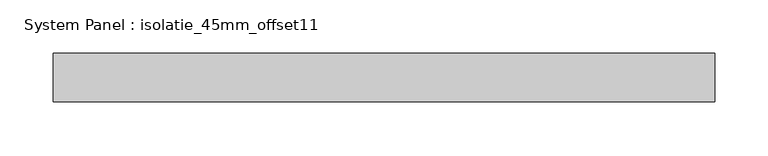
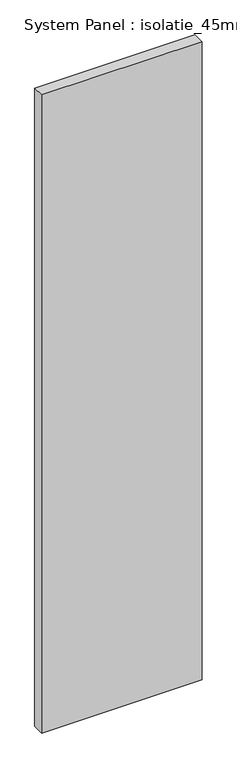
"""IFC4 building model written with IfcOpenShell, lengths in millimetres: plate geometry, System Panel : isolatie_45mm_offset11."""

import ifcopenshell
import ifcopenshell.guid

model = None  # the IFC model being written
_history = None  # IfcOwnerHistory: only IFC2X3 demands one
_inside = {}  # id of a spatial element -> (the spatial element, [elements in it])
_under = {}  # id of a project, library or spatial element -> (it, [spatial elements below it])
_declared = {}  # id of a project -> (the project, [libraries it declares])
_typed = {}  # id of a type object -> (the type object, [elements of that type])
_made_of = {}  # id of a material, layer set ... -> (it, [elements and type objects made of it])


def new_model(schema):
    """Start an empty IFC model of exactly this schema.

    Asked for "IFC4X3", IfcOpenShell would pick the latest addendum, in which some entities
    have other attributes; the version numbers below select the first issue.
    IFC2X3 requires an IfcOwnerHistory on every rooted entity: one is made here for all.
    """
    global model, _history
    if schema == "IFC4X3":
        model = ifcopenshell.file(schema_version=(4, 3, 0, 0))
    else:
        model = ifcopenshell.file(schema=schema)
    _inside.clear()
    _under.clear()
    _declared.clear()
    _typed.clear()
    _made_of.clear()
    _history = None
    if model.schema == "IFC2X3":
        org = make("IfcOrganization", Name="unknown")
        user = make(
            "IfcPersonAndOrganization",
            ThePerson=make("IfcPerson", FamilyName="unknown"),
            TheOrganization=org,
        )
        app = make(
            "IfcApplication",
            ApplicationDeveloper=org,
            Version="unknown",
            ApplicationFullName="unknown",
            ApplicationIdentifier="unknown",
        )
        _history = make(
            "IfcOwnerHistory",
            OwningUser=user,
            OwningApplication=app,
            ChangeAction="ADDED",
            CreationDate=0,
        )
    return model


def make(cls, **values):
    """One entity of the class cls with the attributes given. An attribute that is None is left unset."""
    return model.create_entity(
        cls, **{name: value for name, value in values.items() if value is not None}
    )


def rooted(cls, **values):
    """An entity with a GlobalId (a new one), such as an element, a storey or a relation."""
    return make(cls, GlobalId=ifcopenshell.guid.new(), OwnerHistory=_history, **values)


def si_unit(unit_type, name, prefix=None):
    """IfcSIUnit, for example si_unit("LENGTHUNIT", "METRE", prefix="MILLI")."""
    return make("IfcSIUnit", UnitType=unit_type, Prefix=prefix, Name=name)


def assignment(units):
    """IfcUnitAssignment: the units of a project."""
    return None if units is None else make("IfcUnitAssignment", Units=units)


def point(xyz):
    """IfcCartesianPoint."""
    return None if xyz is None else make("IfcCartesianPoint", Coordinates=xyz)


def direction(xyz):
    """IfcDirection."""
    return None if xyz is None else make("IfcDirection", DirectionRatios=xyz)


def frame(location, z_axis=None, x_axis=None):
    """IfcAxis2Placement3D, a coordinate frame: its origin and axes. An axis left out is left unset."""
    return make(
        "IfcAxis2Placement3D",
        Location=point(location),
        Axis=direction(z_axis),
        RefDirection=direction(x_axis),
    )


def origin():
    """The frame at (0, 0, 0) with its axes left unset."""
    return frame((0.0, 0.0, 0.0))


def origin_with_axes():
    """The frame at (0, 0, 0) with the z axis (0, 0, 1) and the x axis (1, 0, 0) written out."""
    return frame((0.0, 0.0, 0.0), z_axis=(0.0, 0.0, 1.0), x_axis=(1.0, 0.0, 0.0))


def place(relative_to, where):
    """IfcLocalPlacement: puts the frame where relative to a parent placement (None: the world)."""
    return make(
        "IfcLocalPlacement", PlacementRelTo=relative_to, RelativePlacement=where
    )


def context(
    kind, dimensions, precision=None, world=None, true_north=None, identifier=None
):
    """IfcGeometricRepresentationContext, for example the 3D "Model" context."""
    return make(
        "IfcGeometricRepresentationContext",
        ContextIdentifier=identifier,
        ContextType=kind,
        CoordinateSpaceDimension=dimensions,
        Precision=precision,
        WorldCoordinateSystem=world,
        TrueNorth=true_north,
    )


def project(units=None, contexts=None):
    """IfcProject with its units and contexts."""
    return rooted(
        "IfcProject",
        Name="project",
        RepresentationContexts=contexts,
        UnitsInContext=assignment(units),
    )


def spatial(cls, under=None, at=None, **own):
    """A site, building, storey or space (cls), placed at a placement, below another one or the project."""
    s = rooted(cls, ObjectPlacement=at, **own)
    if under is not None:
        _under.setdefault(under.id(), (under, []))[1].append(s)
    return s


def polyline(points):
    """IfcPolyline through the points."""
    return make("IfcPolyline", Points=[point(p) for p in points])


def outline(outer, holes=None, kind="AREA"):
    """IfcArbitraryClosedProfileDef: a profile drawn as a closed curve; with holes, ...WithVoids."""
    if holes is None:
        return make("IfcArbitraryClosedProfileDef", ProfileType=kind, OuterCurve=outer)
    return make(
        "IfcArbitraryProfileDefWithVoids",
        ProfileType=kind,
        OuterCurve=outer,
        InnerCurves=holes,
    )


def extrude(swept, where, along, depth):
    """IfcExtrudedAreaSolid: the profile swept, set in the frame where, extruded along a direction by depth."""
    return make(
        "IfcExtrudedAreaSolid",
        SweptArea=swept,
        Position=where,
        ExtrudedDirection=direction(along),
        Depth=depth,
    )


def shape(context_of_items, identifier, shape_type, items):
    """IfcShapeRepresentation: the items that make up one representation, for example the "Body"."""
    return make(
        "IfcShapeRepresentation",
        ContextOfItems=context_of_items,
        RepresentationIdentifier=identifier,
        RepresentationType=shape_type,
        Items=items,
    )


def source(mapping_origin, context_of_items, identifier, shape_type, items):
    """IfcRepresentationMap: a shape defined once, which mapped items show again and again."""
    return make(
        "IfcRepresentationMap",
        MappingOrigin=mapping_origin,
        MappedRepresentation=shape(context_of_items, identifier, shape_type, items),
    )


def transform(
    local_origin,
    x_axis=None,
    y_axis=None,
    z_axis=None,
    scale=None,
    scale2=None,
    scale3=None,
    uniform=True,
):
    """IfcCartesianTransformationOperator3D, or its non-uniform kind. x_axis, y_axis, z_axis: its Axis1, 2, 3."""
    if uniform:
        return make(
            "IfcCartesianTransformationOperator3D",
            Axis1=direction(x_axis),
            Axis2=direction(y_axis),
            LocalOrigin=point(local_origin),
            Scale=scale,
            Axis3=direction(z_axis),
        )
    return make(
        "IfcCartesianTransformationOperator3DnonUniform",
        Axis1=direction(x_axis),
        Axis2=direction(y_axis),
        LocalOrigin=point(local_origin),
        Scale=scale,
        Axis3=direction(z_axis),
        Scale2=scale2,
        Scale3=scale3,
    )


def mapped(mapping_source, mapping_target):
    """IfcMappedItem: shows the shape of a source again, moved by a transform."""
    return make(
        "IfcMappedItem", MappingSource=mapping_source, MappingTarget=mapping_target
    )


def made_of(thing, what):
    """Note that an element or type object is made of a material, layer set ...; save() writes the relation."""
    if what is not None:
        _made_of.setdefault(what.id(), (what, []))[1].append(thing)
    return thing


def element(
    cls,
    number,
    at=None,
    inside=None,
    cuts=None,
    type_object=None,
    material=None,
    context=None,
    identifier="Body",
    shape_type=None,
    held_by="IfcProductDefinitionShape",
    body=None,
    shapes=None,
    **own,
):
    """One element of the class cls, such as IfcWall. Its Tag is "e" and its number.

    at: its placement. inside: the storey or other place that contains it. cuts: it is an
    opening in that element (IfcRelVoidsElement). A single representation is given by context,
    identifier, shape_type and body (its items); several are given by shapes. held_by: the class
    of the entity that holds the representations. save() writes the other relations.
    """
    e = rooted(cls, Tag="e%d" % number, ObjectPlacement=at, **own)
    if body is not None:
        shapes = [shape(context, identifier, shape_type, body)]
    if shapes is not None:
        e.Representation = make(held_by, Representations=shapes)
    if inside is not None:
        _inside.setdefault(inside.id(), (inside, []))[1].append(e)
    if cuts is not None:
        rooted(
            "IfcRelVoidsElement", RelatingBuildingElement=cuts, RelatedOpeningElement=e
        )
    if type_object is not None:
        _typed.setdefault(type_object.id(), (type_object, []))[1].append(e)
    return made_of(e, material)


def aggregate(whole, parts):
    """IfcRelAggregates: a whole, such as a stair, and the parts it consists of."""
    return rooted("IfcRelAggregates", RelatingObject=whole, RelatedObjects=parts)


def save(model, path):
    """Write the relations noted so far, then the file.

    IfcRelAggregates (storeys below a building ...), IfcRelContainedInSpatialStructure (elements
    in a storey), IfcRelDefinesByType, IfcRelAssociatesMaterial and IfcRelDeclares: one each for
    every whole, place, type object, material and project.
    """
    for whole, parts in _under.values():
        aggregate(whole, parts)
    for where, things in _inside.values():
        rooted(
            "IfcRelContainedInSpatialStructure",
            RelatedElements=things,
            RelatingStructure=where,
        )
    for kind, things in _typed.values():
        rooted("IfcRelDefinesByType", RelatedObjects=things, RelatingType=kind)
    for what, things in _made_of.values():
        rooted("IfcRelAssociatesMaterial", RelatedObjects=things, RelatingMaterial=what)
    for by, libraries in _declared.values():
        rooted("IfcRelDeclares", RelatingContext=by, RelatedDefinitions=libraries)
    model.write(path)


def system_panel_isolatie_45mm_offset11_5da9fec7(model_context):
    return source(origin(), model_context, "Body", "SweptSolid", [
        extrude(outline(polyline([(309.0, -11.5), (-309.0, -11.5), (-309.0, 33.5), (309.0, 33.5), (309.0, -11.5)])), origin_with_axes(), (0.0, 0.0, 1.0), 2598.0),
    ])


if __name__ == "__main__":
    model = new_model("IFC4")
    model_context = context("Model", 3, world=origin())
    ifc_project = project(units=[si_unit("LENGTHUNIT", "METRE", prefix="MILLI")], contexts=[model_context])
    site = spatial("IfcSite", under=ifc_project)
    building = spatial("IfcBuilding", under=site)
    placement = place(None, origin())
    system_panel_isolatie_45mm_offset11_shape = system_panel_isolatie_45mm_offset11_5da9fec7(model_context)
    element("IfcPlate", 1, ObjectType="System Panel : isolatie_45mm_offset11", at=placement, inside=building, context=model_context, shape_type="MappedRepresentation", body=[
        mapped(system_panel_isolatie_45mm_offset11_shape, transform((0.0, 0.0, 0.0), x_axis=(1.0, 0.0, 0.0), y_axis=(0.0, 1.0, 0.0), z_axis=(0.0, 0.0, 1.0))),
    ])
    save(model, "model.ifc")
